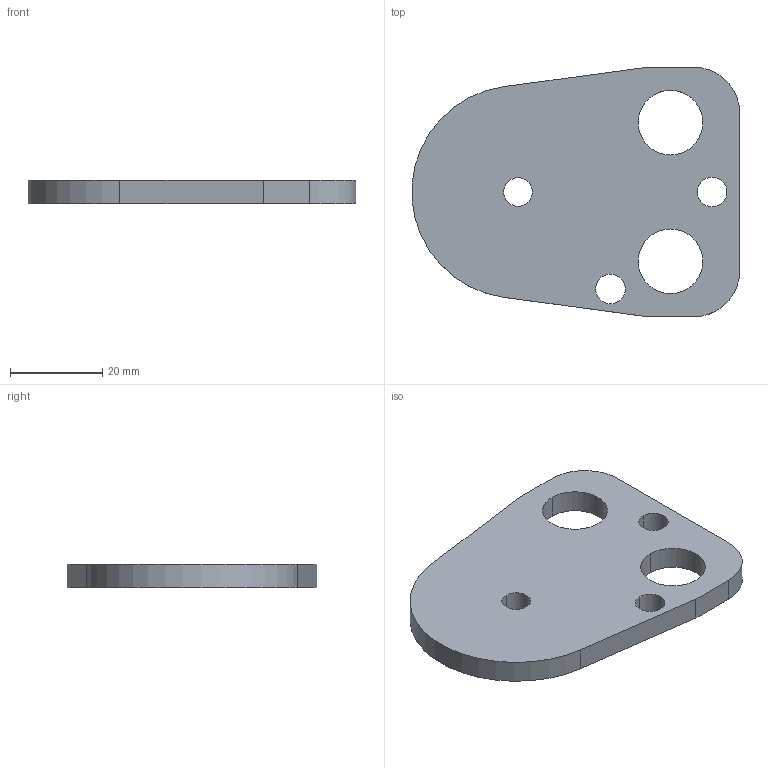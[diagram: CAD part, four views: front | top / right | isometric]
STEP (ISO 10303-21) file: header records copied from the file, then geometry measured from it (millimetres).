
FILE_DESCRIPTION(/* description */ (''),/* implementation_level */ '2;1');
FILE_NAME(/* name */ '3d_bpc32_03420_r00.stp',/* time_stamp */ '2011-01-10T14:17:09+09:00',/* author */ ('MISUMI'),/* organization */ (''),/* preprocessor_version */ 'ST-DEVELOPER v11',/* originating_system */ 'UGS - NX 5.0',/* authorisation */ '');
FILE_SCHEMA (('CONFIG_CONTROL_DESIGN'));
Length unit declared in the file: millimetre
Products named in the file (1): 3d_bpc32_03420_r00
Bounding box: 70.92 x 54 x 5 mm (x, y, z)
Volume: 14359.7 mm3; surface area: 7553.2 mm2
Topology: 1 solids, 1 shells, 20 faces, 54 edges, 36 vertices
Faces by surface type: cylinder 13, plane 7
Entity records: 750 total; most frequent: DIRECTION 122, CARTESIAN_POINT 111, ORIENTED_EDGE 108, EDGE_CURVE 54, AXIS2_PLACEMENT_3D 47, VERTEX_POINT 36, EDGE_LOOP 30, LINE 28
